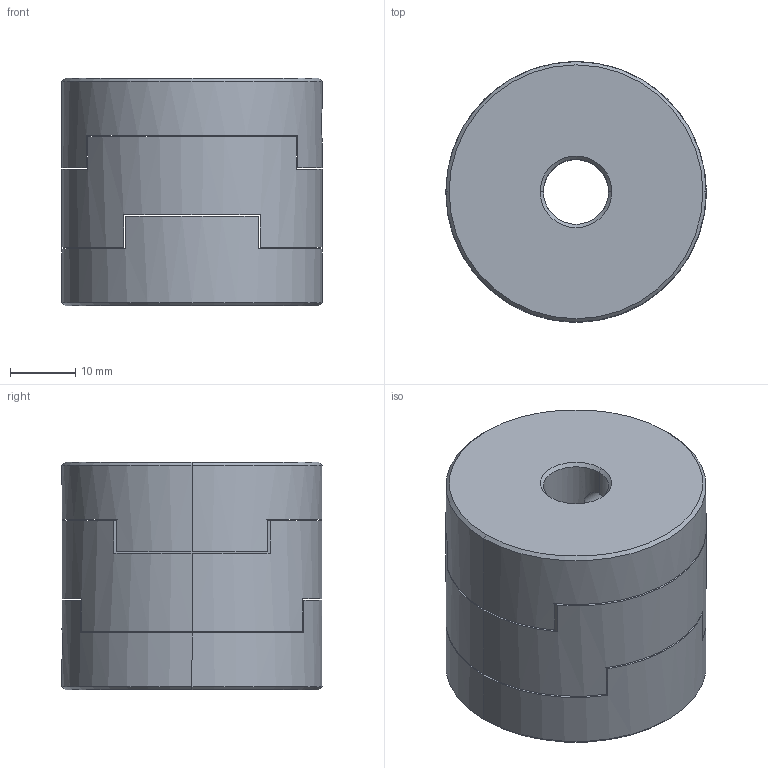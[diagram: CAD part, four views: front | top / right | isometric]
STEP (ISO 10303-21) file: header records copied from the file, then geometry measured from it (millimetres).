
FILE_DESCRIPTION (( 'STEP AP203' ), '1' );
FILE_NAME ('SOL-40.STEP', '2009-09-30T17:34:11', ( 'USER' ), ( 'HOME' ), 'SwSTEP 2.0', 'SolidWorks 2007', '' );
FILE_SCHEMA (( 'CONFIG_CONTROL_DESIGN' ));
Length unit declared in the file: millimetre
Products named in the file (1): SOL-40
Bounding box: 40 x 40 x 35 mm (x, y, z)
Volume: 39876.2 mm3; surface area: 13852.4 mm2
Topology: 3 solids, 3 shells, 48 faces, 126 edges, 80 vertices
Faces by surface type: plane 22, cylinder 18, cone 8
Entity records: 1805 total; most frequent: CARTESIAN_POINT 501, DIRECTION 266, ORIENTED_EDGE 252, EDGE_CURVE 126, AXIS2_PLACEMENT_3D 101, VERTEX_POINT 80, VECTOR 64, LINE 64
